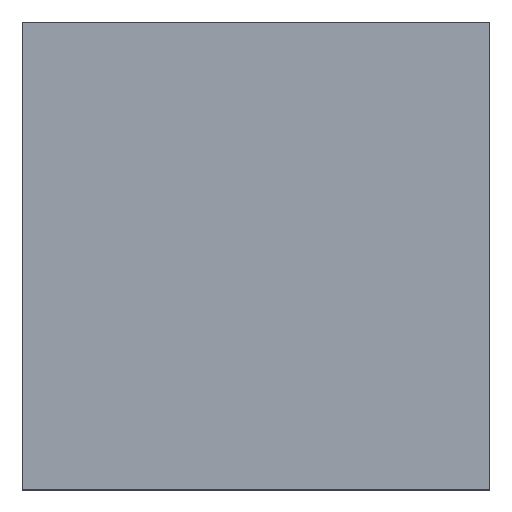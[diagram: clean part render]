
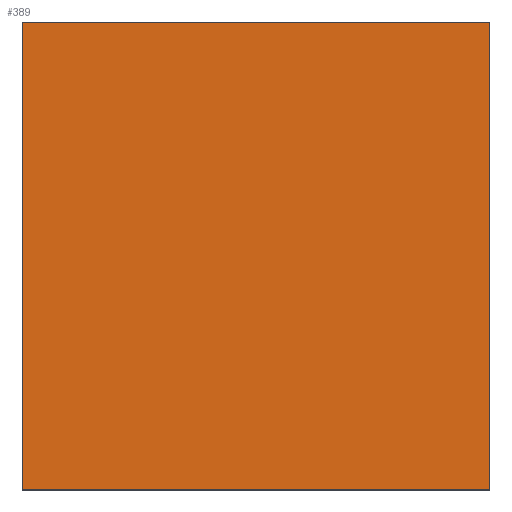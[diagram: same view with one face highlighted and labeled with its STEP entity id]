
A CAD part, top view. The second image highlights one B-rep face of the part: STEP entity #389.
In plain terms, the highlighted planar face has unit normal (0, 0, 1).
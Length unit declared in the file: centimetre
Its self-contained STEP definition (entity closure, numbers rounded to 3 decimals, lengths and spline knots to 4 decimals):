
#12 = VERTEX_POINT ( 'NONE', #60 ) ;
#19 = CARTESIAN_POINT ( 'NONE',  ( 0., 1000., 1000. ) ) ;
#44 = CARTESIAN_POINT ( 'NONE',  ( 0., 1000., 1000. ) ) ;
#60 = CARTESIAN_POINT ( 'NONE',  ( 0., 0., 1000. ) ) ;
#77 = DIRECTION ( 'NONE',  ( 1., 0., 0. ) ) ;
#78 = VERTEX_POINT ( 'NONE', #87 ) ;
#81 = CARTESIAN_POINT ( 'NONE',  ( 0., 0., 1000. ) ) ;
#87 = CARTESIAN_POINT ( 'NONE',  ( 0., 1000., 1000. ) ) ;
#113 = PLANE ( 'NONE',  #365 ) ;
#127 = CARTESIAN_POINT ( 'NONE',  ( 1000., 1000., 1000. ) ) ;
#132 = EDGE_CURVE ( 'NONE', #78, #12, #157, .T. ) ;
#147 = EDGE_CURVE ( 'NONE', #447, #186, #162, .T. ) ;
#148 = CARTESIAN_POINT ( 'NONE',  ( 0., 0., 1000. ) ) ;
#157 = LINE ( 'NONE', #19, #233 ) ;
#162 = LINE ( 'NONE', #127, #296 ) ;
#186 = VERTEX_POINT ( 'NONE', #416 ) ;
#221 = DIRECTION ( 'NONE',  ( 0., 0., 1. ) ) ;
#233 = VECTOR ( 'NONE', #306, 100. ) ;
#254 = ORIENTED_EDGE ( 'NONE', *, *, #147, .T. ) ;
#257 = ORIENTED_EDGE ( 'NONE', *, *, #436, .T. ) ;
#258 = FACE_OUTER_BOUND ( 'NONE', #364, .T. ) ;
#293 = LINE ( 'NONE', #44, #342 ) ;
#296 = VECTOR ( 'NONE', #454, 100. ) ;
#299 = DIRECTION ( 'NONE',  ( -1., 0., 0. ) ) ;
#306 = DIRECTION ( 'NONE',  ( 0., -1., 0. ) ) ;
#336 = DIRECTION ( 'NONE',  ( 1., 0., 0. ) ) ;
#342 = VECTOR ( 'NONE', #299, 100. ) ;
#364 = EDGE_LOOP ( 'NONE', ( #408, #257, #254, #382 ) ) ;
#365 = AXIS2_PLACEMENT_3D ( 'NONE', #148, #221, #336 ) ;
#382 = ORIENTED_EDGE ( 'NONE', *, *, #423, .T. ) ;
#389 = ADVANCED_FACE ( 'NONE', ( #258 ), #113, .T. ) ;
#408 = ORIENTED_EDGE ( 'NONE', *, *, #132, .T. ) ;
#413 = LINE ( 'NONE', #81, #424 ) ;
#416 = CARTESIAN_POINT ( 'NONE',  ( 1000., 1000., 1000. ) ) ;
#423 = EDGE_CURVE ( 'NONE', #186, #78, #293, .T. ) ;
#424 = VECTOR ( 'NONE', #77, 100. ) ;
#436 = EDGE_CURVE ( 'NONE', #12, #447, #413, .T. ) ;
#443 = CARTESIAN_POINT ( 'NONE',  ( 1000., 0., 1000. ) ) ;
#447 = VERTEX_POINT ( 'NONE', #443 ) ;
#454 = DIRECTION ( 'NONE',  ( 0., 1., 0. ) ) ;
